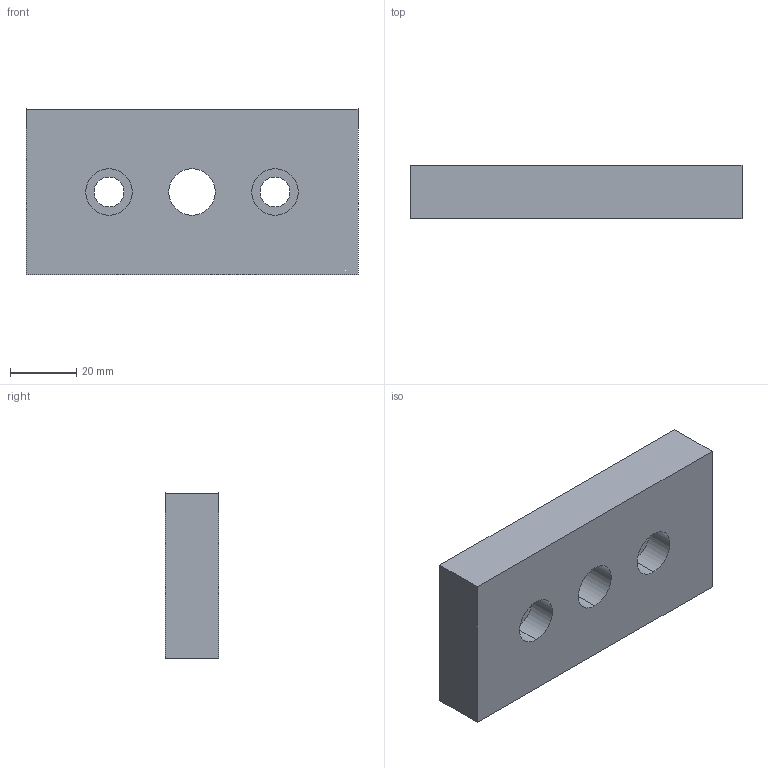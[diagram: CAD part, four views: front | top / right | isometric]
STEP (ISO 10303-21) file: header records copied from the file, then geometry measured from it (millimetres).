
FILE_DESCRIPTION (( 'STEP AP203' ), '1' );
FILE_NAME ('J5B10.STEP', '2018-08-29T04:24:02', ( 'sr-d11' ), ( 'MouseComputer PC' ), 'SwSTEP 2.0', 'SolidWorks 2014', '' );
FILE_SCHEMA (( 'CONFIG_CONTROL_DESIGN' ));
Length unit declared in the file: millimetre
Products named in the file (1): J5B10
Bounding box: 100 x 16 x 50 mm (x, y, z)
Volume: 73947.7 mm3; surface area: 16116.3 mm2
Topology: 1 solids, 1 shells, 18 faces, 42 edges, 28 vertices
Faces by surface type: cylinder 10, plane 8
Entity records: 615 total; most frequent: DIRECTION 100, CARTESIAN_POINT 89, ORIENTED_EDGE 84, EDGE_CURVE 42, AXIS2_PLACEMENT_3D 39, VERTEX_POINT 28, EDGE_LOOP 26, VECTOR 22
